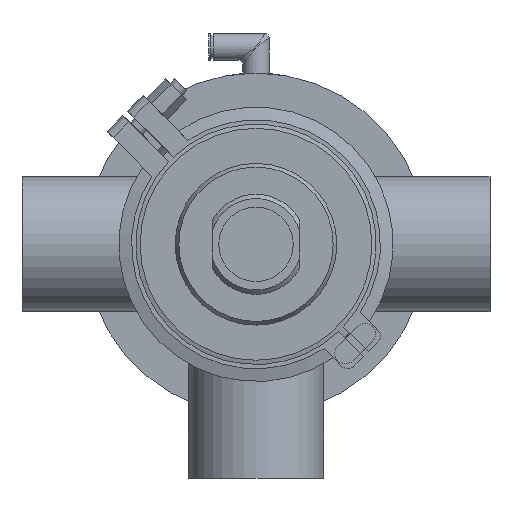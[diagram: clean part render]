
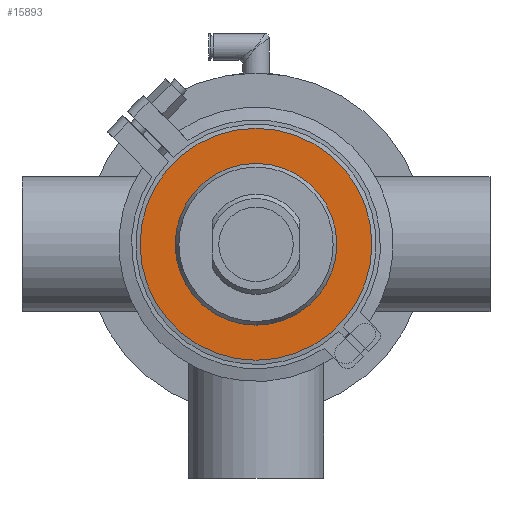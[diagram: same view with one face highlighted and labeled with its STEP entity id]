
A CAD part, front view. The second image highlights one B-rep face of the part: STEP entity #15893.
In plain terms, the highlighted planar face has unit normal (0, -1, 0).
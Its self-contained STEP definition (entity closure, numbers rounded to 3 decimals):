
#2076 = CARTESIAN_POINT ( 'NONE',  ( -54.5, -13., 0. ) ) ;
#2556 = EDGE_LOOP ( 'NONE', ( #4811 ) ) ;
#2758 = EDGE_LOOP ( 'NONE', ( #12566 ) ) ;
#2995 = CARTESIAN_POINT ( 'NONE',  ( 0., -13., 0. ) ) ;
#4143 = CARTESIAN_POINT ( 'NONE',  ( 0., -13., 38. ) ) ;
#4811 = ORIENTED_EDGE ( 'NONE', *, *, #13754, .F. ) ;
#5803 = FACE_BOUND ( 'NONE', #2758, .T. ) ;
#5879 = VERTEX_POINT ( 'NONE', #4143 ) ;
#6106 = CIRCLE ( 'NONE', #15444, 54.5 ) ;
#7505 = CARTESIAN_POINT ( 'NONE',  ( 0., -13., 54.5 ) ) ;
#8638 = AXIS2_PLACEMENT_3D ( 'NONE', #2995, #12311, #12070 ) ;
#8787 = AXIS2_PLACEMENT_3D ( 'NONE', #2076, #14560, #21740 ) ;
#9245 = VERTEX_POINT ( 'NONE', #7505 ) ;
#9353 = DIRECTION ( 'NONE',  ( 0., 1., 0. ) ) ;
#12070 = DIRECTION ( 'NONE',  ( 0., 0., 1. ) ) ;
#12125 = DIRECTION ( 'NONE',  ( 0., 0., 1. ) ) ;
#12311 = DIRECTION ( 'NONE',  ( 0., 1., 0. ) ) ;
#12566 = ORIENTED_EDGE ( 'NONE', *, *, #22921, .T. ) ;
#13754 = EDGE_CURVE ( 'NONE', #9245, #9245, #6106, .T. ) ;
#14560 = DIRECTION ( 'NONE',  ( 0., -1., 0. ) ) ;
#15444 = AXIS2_PLACEMENT_3D ( 'NONE', #19976, #9353, #12125 ) ;
#15893 = ADVANCED_FACE ( 'NONE', ( #5803, #16301 ), #18043, .T. ) ;
#16301 = FACE_OUTER_BOUND ( 'NONE', #2556, .T. ) ;
#16836 = CIRCLE ( 'NONE', #8638, 38. ) ;
#18043 = PLANE ( 'NONE',  #8787 ) ;
#19976 = CARTESIAN_POINT ( 'NONE',  ( 0., -13., 0. ) ) ;
#21740 = DIRECTION ( 'NONE',  ( 0., 0., -1. ) ) ;
#22921 = EDGE_CURVE ( 'NONE', #5879, #5879, #16836, .T. ) ;
